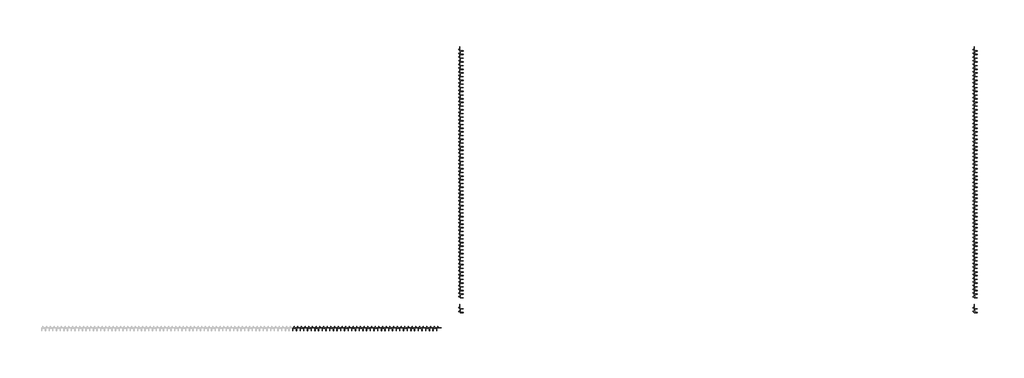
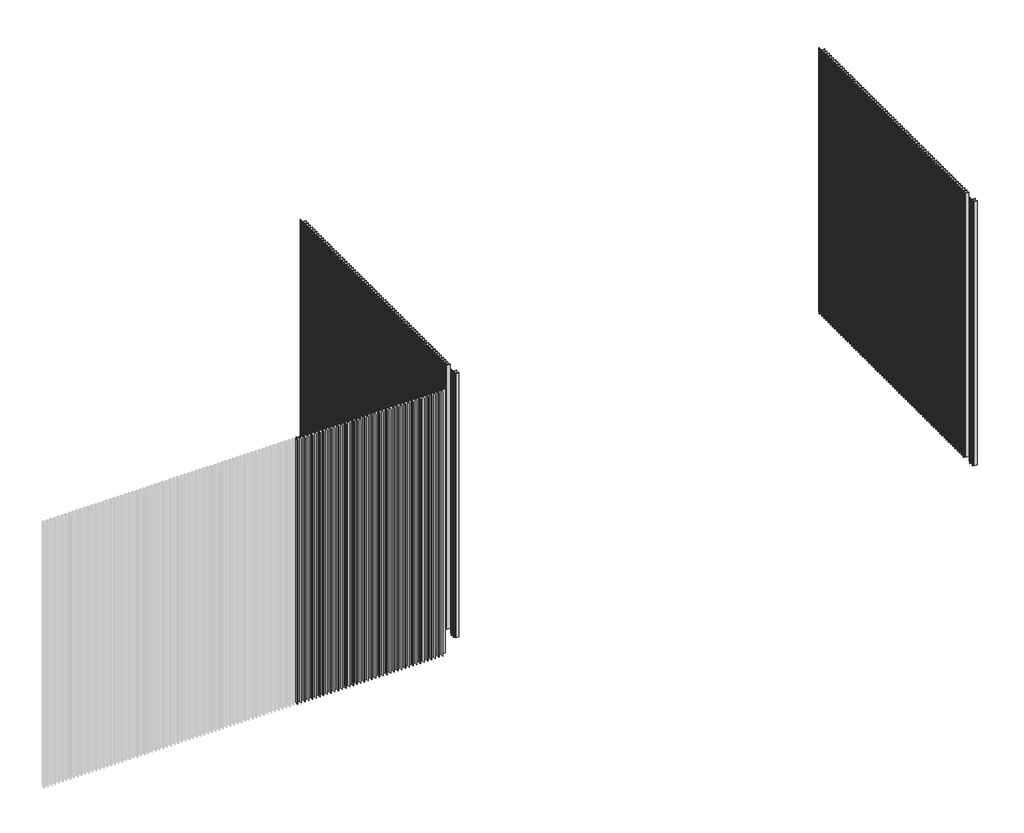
# One storey, part 2 of 2: 90 members.
"""IFC4 building model written with IfcOpenShell, lengths in millimetres."""

from ifc_helpers import new_model, si_unit, origin, place, context, project, spatial, transform, mapped, element, save
from components import rectangular_mullion_a288ed38, rectangular_mullion_a0ea876d

model = new_model("IFC4")

# Units and contexts
model_context = context("Model", 3, world=origin())
ifc_project = project(units=[si_unit("LENGTHUNIT", "METRE", prefix="MILLI")], contexts=[model_context])

# Site, building, storey
site = spatial("IfcSite", under=ifc_project)
building = spatial("IfcBuilding", under=site)
storey = spatial("IfcBuildingStorey", under=building, Name="REN - Top", Elevation=4000.0)

# Members
placement = place(None, origin())
rectangular_mullion_shape = rectangular_mullion_a288ed38(model_context)
element("IfcMember", 1, ObjectType="Rectangular Mullion : Renson_Linarte_LA-E25-01", at=placement, inside=storey, context=model_context, shape_type="MappedRepresentation", body=[
    mapped(rectangular_mullion_shape, transform((209585.5749429, 8204.7218191, 0.0), x_axis=(1.0, 0.0, 0.0), y_axis=(0.0, -1.0, 0.0), z_axis=(0.0, 0.0, -1.0))),
])
element("IfcMember", 2, ObjectType="Rectangular Mullion : Renson_Linarte_LA-E25-01", at=placement, inside=storey, context=model_context, shape_type="MappedRepresentation", body=[
    mapped(rectangular_mullion_shape, transform((209645.5749429, 8204.7218191, 0.0), x_axis=(1.0, 0.0, 0.0), y_axis=(0.0, -1.0, 0.0), z_axis=(0.0, 0.0, -1.0))),
])
element("IfcMember", 3, ObjectType="Rectangular Mullion : Renson_Linarte_LA-E25-01", at=placement, inside=storey, context=model_context, shape_type="MappedRepresentation", body=[
    mapped(rectangular_mullion_shape, transform((209705.5749429, 8204.7218191, 0.0), x_axis=(1.0, 0.0, 0.0), y_axis=(0.0, -1.0, 0.0), z_axis=(0.0, 0.0, -1.0))),
])
element("IfcMember", 4, ObjectType="Rectangular Mullion : Renson_Linarte_LA-E25-01", at=placement, inside=storey, context=model_context, shape_type="MappedRepresentation", body=[
    mapped(rectangular_mullion_shape, transform((209765.5749429, 8204.7218191, 0.0), x_axis=(1.0, 0.0, 0.0), y_axis=(0.0, -1.0, 0.0), z_axis=(0.0, 0.0, -1.0))),
])
element("IfcMember", 5, ObjectType="Rectangular Mullion : Renson_Linarte_LA-E25-01", at=placement, inside=storey, context=model_context, shape_type="MappedRepresentation", body=[
    mapped(rectangular_mullion_shape, transform((209825.5749429, 8204.7218191, 0.0), x_axis=(1.0, 0.0, 0.0), y_axis=(0.0, -1.0, 0.0), z_axis=(0.0, 0.0, -1.0))),
])
element("IfcMember", 6, ObjectType="Rectangular Mullion : Renson_Linarte_LA-E25-01", at=placement, inside=storey, context=model_context, shape_type="MappedRepresentation", body=[
    mapped(rectangular_mullion_shape, transform((209885.5749429, 8204.7218191, 0.0), x_axis=(1.0, 0.0, 0.0), y_axis=(0.0, -1.0, 0.0), z_axis=(0.0, 0.0, -1.0))),
])
element("IfcMember", 7, ObjectType="Rectangular Mullion : Renson_Linarte_LA-E25-01", at=placement, inside=storey, context=model_context, shape_type="MappedRepresentation", body=[
    mapped(rectangular_mullion_shape, transform((209945.5749429, 8204.7218191, 0.0), x_axis=(1.0, 0.0, 0.0), y_axis=(0.0, -1.0, 0.0), z_axis=(0.0, 0.0, -1.0))),
])
element("IfcMember", 8, ObjectType="Rectangular Mullion : Renson_Linarte_LA-E25-01", at=placement, inside=storey, context=model_context, shape_type="MappedRepresentation", body=[
    mapped(rectangular_mullion_shape, transform((210005.5749429, 8204.7218191, 0.0), x_axis=(1.0, 0.0, 0.0), y_axis=(0.0, -1.0, 0.0), z_axis=(0.0, 0.0, -1.0))),
])
element("IfcMember", 9, ObjectType="Rectangular Mullion : Renson_Linarte_LA-E25-01", at=placement, inside=storey, context=model_context, shape_type="MappedRepresentation", body=[
    mapped(rectangular_mullion_shape, transform((210065.5749429, 8204.7218191, 0.0), x_axis=(1.0, 0.0, 0.0), y_axis=(0.0, -1.0, 0.0), z_axis=(0.0, 0.0, -1.0))),
])
element("IfcMember", 10, ObjectType="Rectangular Mullion : Renson_Linarte_LA-E25-01", at=placement, inside=storey, context=model_context, shape_type="MappedRepresentation", body=[
    mapped(rectangular_mullion_shape, transform((210125.5749429, 8204.7218191, 0.0), x_axis=(1.0, 0.0, 0.0), y_axis=(0.0, -1.0, 0.0), z_axis=(0.0, 0.0, -1.0))),
])
element("IfcMember", 11, ObjectType="Rectangular Mullion : Renson_Linarte_LA-E25-01", at=placement, inside=storey, context=model_context, shape_type="MappedRepresentation", body=[
    mapped(rectangular_mullion_shape, transform((210185.5749429, 8204.7218191, 0.0), x_axis=(1.0, 0.0, 0.0), y_axis=(0.0, -1.0, 0.0), z_axis=(0.0, 0.0, -1.0))),
])
element("IfcMember", 12, ObjectType="Rectangular Mullion : Renson_Linarte_LA-E25-01", at=placement, inside=storey, context=model_context, shape_type="MappedRepresentation", body=[
    mapped(rectangular_mullion_shape, transform((210245.5749429, 8204.7218191, 0.0), x_axis=(1.0, 0.0, 0.0), y_axis=(0.0, -1.0, 0.0), z_axis=(0.0, 0.0, -1.0))),
])
element("IfcMember", 13, ObjectType="Rectangular Mullion : Renson_Linarte_LA-E25-01", at=placement, inside=storey, context=model_context, shape_type="MappedRepresentation", body=[
    mapped(rectangular_mullion_shape, transform((210305.5749429, 8204.7218191, 0.0), x_axis=(1.0, 0.0, 0.0), y_axis=(0.0, -1.0, 0.0), z_axis=(0.0, 0.0, -1.0))),
])
element("IfcMember", 14, ObjectType="Rectangular Mullion : Renson_Linarte_LA-E25-01", at=placement, inside=storey, context=model_context, shape_type="MappedRepresentation", body=[
    mapped(rectangular_mullion_shape, transform((210365.5749429, 8204.7218191, 0.0), x_axis=(1.0, 0.0, 0.0), y_axis=(0.0, -1.0, 0.0), z_axis=(0.0, 0.0, -1.0))),
])
element("IfcMember", 15, ObjectType="Rectangular Mullion : Renson_Linarte_LA-E25-01", at=placement, inside=storey, context=model_context, shape_type="MappedRepresentation", body=[
    mapped(rectangular_mullion_shape, transform((210425.5749429, 8204.7218191, 0.0), x_axis=(1.0, 0.0, 0.0), y_axis=(0.0, -1.0, 0.0), z_axis=(0.0, 0.0, -1.0))),
])
element("IfcMember", 16, ObjectType="Rectangular Mullion : Renson_Linarte_LA-E25-01", at=placement, inside=storey, context=model_context, shape_type="MappedRepresentation", body=[
    mapped(rectangular_mullion_shape, transform((210485.5749429, 8204.7218191, 0.0), x_axis=(1.0, 0.0, 0.0), y_axis=(0.0, -1.0, 0.0), z_axis=(0.0, 0.0, -1.0))),
])
element("IfcMember", 17, ObjectType="Rectangular Mullion : Renson_Linarte_LA-E25-01", at=placement, inside=storey, context=model_context, shape_type="MappedRepresentation", body=[
    mapped(rectangular_mullion_shape, transform((210545.5749429, 8204.7218191, 0.0), x_axis=(1.0, 0.0, 0.0), y_axis=(0.0, -1.0, 0.0), z_axis=(0.0, 0.0, -1.0))),
])
element("IfcMember", 18, ObjectType="Rectangular Mullion : Renson_Linarte_LA-E25-01", at=placement, inside=storey, context=model_context, shape_type="MappedRepresentation", body=[
    mapped(rectangular_mullion_shape, transform((210605.5749429, 8204.7218191, 0.0), x_axis=(1.0, 0.0, 0.0), y_axis=(0.0, -1.0, 0.0), z_axis=(0.0, 0.0, -1.0))),
])
element("IfcMember", 19, ObjectType="Rectangular Mullion : Renson_Linarte_LA-E25-01", at=placement, inside=storey, context=model_context, shape_type="MappedRepresentation", body=[
    mapped(rectangular_mullion_shape, transform((210665.5749429, 8204.7218191, 0.0), x_axis=(1.0, 0.0, 0.0), y_axis=(0.0, -1.0, 0.0), z_axis=(0.0, 0.0, -1.0))),
])
element("IfcMember", 20, ObjectType="Rectangular Mullion : Renson_Linarte_LA-E25-01", at=placement, inside=storey, context=model_context, shape_type="MappedRepresentation", body=[
    mapped(rectangular_mullion_shape, transform((210725.5749429, 8204.7218191, 0.0), x_axis=(1.0, 0.0, 0.0), y_axis=(0.0, -1.0, 0.0), z_axis=(0.0, 0.0, -1.0))),
])
element("IfcMember", 21, ObjectType="Rectangular Mullion : Renson_Linarte_LA-E25-01", at=placement, inside=storey, context=model_context, shape_type="MappedRepresentation", body=[
    mapped(rectangular_mullion_shape, transform((215057.0900207, 8379.7218195, 0.0), x_axis=(0.0, 1.0, 0.0), y_axis=(1.0, 0.0, 0.0), z_axis=(0.0, 0.0, -1.0))),
])
element("IfcMember", 22, ObjectType="Rectangular Mullion : Renson_Linarte_LA-E25-01", at=placement, inside=storey, context=model_context, shape_type="MappedRepresentation", body=[
    mapped(rectangular_mullion_shape, transform((215057.0900207, 8439.7218195, 0.0), x_axis=(0.0, 1.0, 0.0), y_axis=(1.0, 0.0, 0.0), z_axis=(0.0, 0.0, -1.0))),
])
element("IfcMember", 23, ObjectType="Rectangular Mullion : Renson_Linarte_LA-E25-01", at=placement, inside=storey, context=model_context, shape_type="MappedRepresentation", body=[
    mapped(rectangular_mullion_shape, transform((215057.0900207, 8499.7218195, 0.0), x_axis=(0.0, 1.0, 0.0), y_axis=(1.0, 0.0, 0.0), z_axis=(0.0, 0.0, -1.0))),
])
element("IfcMember", 24, ObjectType="Rectangular Mullion : Renson_Linarte_LA-E25-01", at=placement, inside=storey, context=model_context, shape_type="MappedRepresentation", body=[
    mapped(rectangular_mullion_shape, transform((215057.0900207, 8559.7218195, 0.0), x_axis=(0.0, 1.0, 0.0), y_axis=(1.0, 0.0, 0.0), z_axis=(0.0, 0.0, -1.0))),
])
element("IfcMember", 25, ObjectType="Rectangular Mullion : Renson_Linarte_LA-E25-01", at=placement, inside=storey, context=model_context, shape_type="MappedRepresentation", body=[
    mapped(rectangular_mullion_shape, transform((215057.0900207, 8619.7218195, 0.0), x_axis=(0.0, 1.0, 0.0), y_axis=(1.0, 0.0, 0.0), z_axis=(0.0, 0.0, -1.0))),
])
element("IfcMember", 26, ObjectType="Rectangular Mullion : Renson_Linarte_LA-E25-01", at=placement, inside=storey, context=model_context, shape_type="MappedRepresentation", body=[
    mapped(rectangular_mullion_shape, transform((215057.0900207, 8679.7218195, 0.0), x_axis=(0.0, 1.0, 0.0), y_axis=(1.0, 0.0, 0.0), z_axis=(0.0, 0.0, -1.0))),
])
element("IfcMember", 27, ObjectType="Rectangular Mullion : Renson_Linarte_LA-E25-01", at=placement, inside=storey, context=model_context, shape_type="MappedRepresentation", body=[
    mapped(rectangular_mullion_shape, transform((215057.0900207, 8739.7218195, 0.0), x_axis=(0.0, 1.0, 0.0), y_axis=(1.0, 0.0, 0.0), z_axis=(0.0, 0.0, -1.0))),
])
element("IfcMember", 28, ObjectType="Rectangular Mullion : Renson_Linarte_LA-E25-01", at=placement, inside=storey, context=model_context, shape_type="MappedRepresentation", body=[
    mapped(rectangular_mullion_shape, transform((215057.0900207, 8799.7218195, 0.0), x_axis=(0.0, 1.0, 0.0), y_axis=(1.0, 0.0, 0.0), z_axis=(0.0, 0.0, -1.0))),
])
element("IfcMember", 29, ObjectType="Rectangular Mullion : Renson_Linarte_LA-E25-01", at=placement, inside=storey, context=model_context, shape_type="MappedRepresentation", body=[
    mapped(rectangular_mullion_shape, transform((215057.0900207, 8859.7218195, 0.0), x_axis=(0.0, 1.0, 0.0), y_axis=(1.0, 0.0, 0.0), z_axis=(0.0, 0.0, -1.0))),
])
element("IfcMember", 30, ObjectType="Rectangular Mullion : Renson_Linarte_LA-E25-01", at=placement, inside=storey, context=model_context, shape_type="MappedRepresentation", body=[
    mapped(rectangular_mullion_shape, transform((215057.0900207, 8919.7218195, 0.0), x_axis=(0.0, 1.0, 0.0), y_axis=(1.0, 0.0, 0.0), z_axis=(0.0, 0.0, -1.0))),
])
element("IfcMember", 31, ObjectType="Rectangular Mullion : Renson_Linarte_LA-E25-01", at=placement, inside=storey, context=model_context, shape_type="MappedRepresentation", body=[
    mapped(rectangular_mullion_shape, transform((215057.0900207, 8979.7218195, 0.0), x_axis=(0.0, 1.0, 0.0), y_axis=(1.0, 0.0, 0.0), z_axis=(0.0, 0.0, -1.0))),
])
element("IfcMember", 32, ObjectType="Rectangular Mullion : Renson_Linarte_LA-E25-01", at=placement, inside=storey, context=model_context, shape_type="MappedRepresentation", body=[
    mapped(rectangular_mullion_shape, transform((215057.0900207, 9039.7218195, 0.0), x_axis=(0.0, 1.0, 0.0), y_axis=(1.0, 0.0, 0.0), z_axis=(0.0, 0.0, -1.0))),
])
element("IfcMember", 33, ObjectType="Rectangular Mullion : Renson_Linarte_LA-E25-01", at=placement, inside=storey, context=model_context, shape_type="MappedRepresentation", body=[
    mapped(rectangular_mullion_shape, transform((215057.0900207, 9099.7218195, 0.0), x_axis=(0.0, 1.0, 0.0), y_axis=(1.0, 0.0, 0.0), z_axis=(0.0, 0.0, -1.0))),
])
element("IfcMember", 34, ObjectType="Rectangular Mullion : Renson_Linarte_LA-E25-01", at=placement, inside=storey, context=model_context, shape_type="MappedRepresentation", body=[
    mapped(rectangular_mullion_shape, transform((215057.0900207, 9159.7218195, 0.0), x_axis=(0.0, 1.0, 0.0), y_axis=(1.0, 0.0, 0.0), z_axis=(0.0, 0.0, -1.0))),
])
element("IfcMember", 35, ObjectType="Rectangular Mullion : Renson_Linarte_LA-E25-01", at=placement, inside=storey, context=model_context, shape_type="MappedRepresentation", body=[
    mapped(rectangular_mullion_shape, transform((215057.0900207, 9219.7218195, 0.0), x_axis=(0.0, 1.0, 0.0), y_axis=(1.0, 0.0, 0.0), z_axis=(0.0, 0.0, -1.0))),
])
element("IfcMember", 36, ObjectType="Rectangular Mullion : Renson_Linarte_LA-E25-01", at=placement, inside=storey, context=model_context, shape_type="MappedRepresentation", body=[
    mapped(rectangular_mullion_shape, transform((215057.0900207, 9279.7218195, 0.0), x_axis=(0.0, 1.0, 0.0), y_axis=(1.0, 0.0, 0.0), z_axis=(0.0, 0.0, -1.0))),
])
element("IfcMember", 37, ObjectType="Rectangular Mullion : Renson_Linarte_LA-E25-01", at=placement, inside=storey, context=model_context, shape_type="MappedRepresentation", body=[
    mapped(rectangular_mullion_shape, transform((215057.0900207, 9339.7218195, 0.0), x_axis=(0.0, 1.0, 0.0), y_axis=(1.0, 0.0, 0.0), z_axis=(0.0, 0.0, -1.0))),
])
element("IfcMember", 38, ObjectType="Rectangular Mullion : Renson_Linarte_LA-E25-01", at=placement, inside=storey, context=model_context, shape_type="MappedRepresentation", body=[
    mapped(rectangular_mullion_shape, transform((215057.0900207, 9399.7218195, 0.0), x_axis=(0.0, 1.0, 0.0), y_axis=(1.0, 0.0, 0.0), z_axis=(0.0, 0.0, -1.0))),
])
element("IfcMember", 39, ObjectType="Rectangular Mullion : Renson_Linarte_LA-E25-01", at=placement, inside=storey, context=model_context, shape_type="MappedRepresentation", body=[
    mapped(rectangular_mullion_shape, transform((215057.0900207, 9459.7218195, 0.0), x_axis=(0.0, 1.0, 0.0), y_axis=(1.0, 0.0, 0.0), z_axis=(0.0, 0.0, -1.0))),
])
element("IfcMember", 40, ObjectType="Rectangular Mullion : Renson_Linarte_LA-E25-01", at=placement, inside=storey, context=model_context, shape_type="MappedRepresentation", body=[
    mapped(rectangular_mullion_shape, transform((215057.0900207, 9519.7218195, 0.0), x_axis=(0.0, 1.0, 0.0), y_axis=(1.0, 0.0, 0.0), z_axis=(0.0, 0.0, -1.0))),
])
element("IfcMember", 41, ObjectType="Rectangular Mullion : Renson_Linarte_LA-E25-01", at=placement, inside=storey, context=model_context, shape_type="MappedRepresentation", body=[
    mapped(rectangular_mullion_shape, transform((215057.0900207, 9579.7218195, 0.0), x_axis=(0.0, 1.0, 0.0), y_axis=(1.0, 0.0, 0.0), z_axis=(0.0, 0.0, -1.0))),
])
element("IfcMember", 42, ObjectType="Rectangular Mullion : Renson_Linarte_LA-E25-01", at=placement, inside=storey, context=model_context, shape_type="MappedRepresentation", body=[
    mapped(rectangular_mullion_shape, transform((215057.0900207, 9639.7218195, 0.0), x_axis=(0.0, 1.0, 0.0), y_axis=(1.0, 0.0, 0.0), z_axis=(0.0, 0.0, -1.0))),
])
element("IfcMember", 43, ObjectType="Rectangular Mullion : Renson_Linarte_LA-E25-01", at=placement, inside=storey, context=model_context, shape_type="MappedRepresentation", body=[
    mapped(rectangular_mullion_shape, transform((215057.0900207, 9699.7218195, 0.0), x_axis=(0.0, 1.0, 0.0), y_axis=(1.0, 0.0, 0.0), z_axis=(0.0, 0.0, -1.0))),
])
element("IfcMember", 44, ObjectType="Rectangular Mullion : Renson_Linarte_LA-E25-01", at=placement, inside=storey, context=model_context, shape_type="MappedRepresentation", body=[
    mapped(rectangular_mullion_shape, transform((215057.0900207, 9759.7218195, 0.0), x_axis=(0.0, 1.0, 0.0), y_axis=(1.0, 0.0, 0.0), z_axis=(0.0, 0.0, -1.0))),
])
element("IfcMember", 45, ObjectType="Rectangular Mullion : Renson_Linarte_LA-E25-01", at=placement, inside=storey, context=model_context, shape_type="MappedRepresentation", body=[
    mapped(rectangular_mullion_shape, transform((215057.0900207, 9819.7218195, 0.0), x_axis=(0.0, 1.0, 0.0), y_axis=(1.0, 0.0, 0.0), z_axis=(0.0, 0.0, -1.0))),
])
element("IfcMember", 46, ObjectType="Rectangular Mullion : Renson_Linarte_LA-E25-01", at=placement, inside=storey, context=model_context, shape_type="MappedRepresentation", body=[
    mapped(rectangular_mullion_shape, transform((215057.0900207, 9879.7218195, 0.0), x_axis=(0.0, 1.0, 0.0), y_axis=(1.0, 0.0, 0.0), z_axis=(0.0, 0.0, -1.0))),
])
element("IfcMember", 47, ObjectType="Rectangular Mullion : Renson_Linarte_LA-E25-01", at=placement, inside=storey, context=model_context, shape_type="MappedRepresentation", body=[
    mapped(rectangular_mullion_shape, transform((215057.0900207, 9939.7218195, 0.0), x_axis=(0.0, 1.0, 0.0), y_axis=(1.0, 0.0, 0.0), z_axis=(0.0, 0.0, -1.0))),
])
element("IfcMember", 48, ObjectType="Rectangular Mullion : Renson_Linarte_LA-E25-01", at=placement, inside=storey, context=model_context, shape_type="MappedRepresentation", body=[
    mapped(rectangular_mullion_shape, transform((215057.0900207, 9999.7218195, 0.0), x_axis=(0.0, 1.0, 0.0), y_axis=(1.0, 0.0, 0.0), z_axis=(0.0, 0.0, -1.0))),
])
element("IfcMember", 49, ObjectType="Rectangular Mullion : Renson_Linarte_LA-E25-01", at=placement, inside=storey, context=model_context, shape_type="MappedRepresentation", body=[
    mapped(rectangular_mullion_shape, transform((215057.0900207, 10059.7218195, 0.0), x_axis=(0.0, 1.0, 0.0), y_axis=(1.0, 0.0, 0.0), z_axis=(0.0, 0.0, -1.0))),
])
element("IfcMember", 50, ObjectType="Rectangular Mullion : Renson_Linarte_LA-E25-01", at=placement, inside=storey, context=model_context, shape_type="MappedRepresentation", body=[
    mapped(rectangular_mullion_shape, transform((215057.0900207, 10119.7218195, 0.0), x_axis=(0.0, 1.0, 0.0), y_axis=(1.0, 0.0, 0.0), z_axis=(0.0, 0.0, -1.0))),
])
element("IfcMember", 51, ObjectType="Rectangular Mullion : Renson_Linarte_LA-E25-01", at=placement, inside=storey, context=model_context, shape_type="MappedRepresentation", body=[
    mapped(rectangular_mullion_shape, transform((215057.0900207, 10179.7218195, 0.0), x_axis=(0.0, 1.0, 0.0), y_axis=(1.0, 0.0, 0.0), z_axis=(0.0, 0.0, -1.0))),
])
element("IfcMember", 52, ObjectType="Rectangular Mullion : Renson_Linarte_LA-E25-01", at=placement, inside=storey, context=model_context, shape_type="MappedRepresentation", body=[
    mapped(rectangular_mullion_shape, transform((215057.0900207, 10239.7218195, 0.0), x_axis=(0.0, 1.0, 0.0), y_axis=(1.0, 0.0, 0.0), z_axis=(0.0, 0.0, -1.0))),
])
element("IfcMember", 53, ObjectType="Rectangular Mullion : Renson_Linarte_LA-E25-01", at=placement, inside=storey, context=model_context, shape_type="MappedRepresentation", body=[
    mapped(rectangular_mullion_shape, transform((215057.0900207, 10299.7218195, 0.0), x_axis=(0.0, 1.0, 0.0), y_axis=(1.0, 0.0, 0.0), z_axis=(0.0, 0.0, -1.0))),
])
element("IfcMember", 54, ObjectType="Rectangular Mullion : Renson_Linarte_LA-E25-01", at=placement, inside=storey, context=model_context, shape_type="MappedRepresentation", body=[
    mapped(rectangular_mullion_shape, transform((215057.0900207, 10359.7218195, 0.0), x_axis=(0.0, 1.0, 0.0), y_axis=(1.0, 0.0, 0.0), z_axis=(0.0, 0.0, -1.0))),
])
element("IfcMember", 55, ObjectType="Rectangular Mullion : Renson_Linarte_LA-E25-01", at=placement, inside=storey, context=model_context, shape_type="MappedRepresentation", body=[
    mapped(rectangular_mullion_shape, transform((210877.0900207, 8379.7218195, 0.0), x_axis=(0.0, 1.0, 0.0), y_axis=(1.0, 0.0, 0.0), z_axis=(0.0, 0.0, -1.0))),
])
element("IfcMember", 56, ObjectType="Rectangular Mullion : Renson_Linarte_LA-E25-01", at=placement, inside=storey, context=model_context, shape_type="MappedRepresentation", body=[
    mapped(rectangular_mullion_shape, transform((210877.0900207, 8439.7218195, 0.0), x_axis=(0.0, 1.0, 0.0), y_axis=(1.0, 0.0, 0.0), z_axis=(0.0, 0.0, -1.0))),
])
element("IfcMember", 57, ObjectType="Rectangular Mullion : Renson_Linarte_LA-E25-01", at=placement, inside=storey, context=model_context, shape_type="MappedRepresentation", body=[
    mapped(rectangular_mullion_shape, transform((210877.0900207, 8499.7218195, 0.0), x_axis=(0.0, 1.0, 0.0), y_axis=(1.0, 0.0, 0.0), z_axis=(0.0, 0.0, -1.0))),
])
element("IfcMember", 58, ObjectType="Rectangular Mullion : Renson_Linarte_LA-E25-01", at=placement, inside=storey, context=model_context, shape_type="MappedRepresentation", body=[
    mapped(rectangular_mullion_shape, transform((210877.0900207, 8559.7218195, 0.0), x_axis=(0.0, 1.0, 0.0), y_axis=(1.0, 0.0, 0.0), z_axis=(0.0, 0.0, -1.0))),
])
element("IfcMember", 59, ObjectType="Rectangular Mullion : Renson_Linarte_LA-E25-01", at=placement, inside=storey, context=model_context, shape_type="MappedRepresentation", body=[
    mapped(rectangular_mullion_shape, transform((210877.0900207, 8619.7218195, 0.0), x_axis=(0.0, 1.0, 0.0), y_axis=(1.0, 0.0, 0.0), z_axis=(0.0, 0.0, -1.0))),
])
element("IfcMember", 60, ObjectType="Rectangular Mullion : Renson_Linarte_LA-E25-01", at=placement, inside=storey, context=model_context, shape_type="MappedRepresentation", body=[
    mapped(rectangular_mullion_shape, transform((210877.0900207, 8679.7218195, 0.0), x_axis=(0.0, 1.0, 0.0), y_axis=(1.0, 0.0, 0.0), z_axis=(0.0, 0.0, -1.0))),
])
element("IfcMember", 61, ObjectType="Rectangular Mullion : Renson_Linarte_LA-E25-01", at=placement, inside=storey, context=model_context, shape_type="MappedRepresentation", body=[
    mapped(rectangular_mullion_shape, transform((210877.0900207, 8739.7218195, 0.0), x_axis=(0.0, 1.0, 0.0), y_axis=(1.0, 0.0, 0.0), z_axis=(0.0, 0.0, -1.0))),
])
element("IfcMember", 62, ObjectType="Rectangular Mullion : Renson_Linarte_LA-E25-01", at=placement, inside=storey, context=model_context, shape_type="MappedRepresentation", body=[
    mapped(rectangular_mullion_shape, transform((210877.0900207, 8799.7218195, 0.0), x_axis=(0.0, 1.0, 0.0), y_axis=(1.0, 0.0, 0.0), z_axis=(0.0, 0.0, -1.0))),
])
element("IfcMember", 63, ObjectType="Rectangular Mullion : Renson_Linarte_LA-E25-01", at=placement, inside=storey, context=model_context, shape_type="MappedRepresentation", body=[
    mapped(rectangular_mullion_shape, transform((210877.0900207, 8859.7218195, 0.0), x_axis=(0.0, 1.0, 0.0), y_axis=(1.0, 0.0, 0.0), z_axis=(0.0, 0.0, -1.0))),
])
element("IfcMember", 64, ObjectType="Rectangular Mullion : Renson_Linarte_LA-E25-01", at=placement, inside=storey, context=model_context, shape_type="MappedRepresentation", body=[
    mapped(rectangular_mullion_shape, transform((210877.0900207, 8919.7218195, 0.0), x_axis=(0.0, 1.0, 0.0), y_axis=(1.0, 0.0, 0.0), z_axis=(0.0, 0.0, -1.0))),
])
element("IfcMember", 65, ObjectType="Rectangular Mullion : Renson_Linarte_LA-E25-01", at=placement, inside=storey, context=model_context, shape_type="MappedRepresentation", body=[
    mapped(rectangular_mullion_shape, transform((210877.0900207, 8979.7218195, 0.0), x_axis=(0.0, 1.0, 0.0), y_axis=(1.0, 0.0, 0.0), z_axis=(0.0, 0.0, -1.0))),
])
element("IfcMember", 66, ObjectType="Rectangular Mullion : Renson_Linarte_LA-E25-01", at=placement, inside=storey, context=model_context, shape_type="MappedRepresentation", body=[
    mapped(rectangular_mullion_shape, transform((210877.0900207, 9039.7218195, 0.0), x_axis=(0.0, 1.0, 0.0), y_axis=(1.0, 0.0, 0.0), z_axis=(0.0, 0.0, -1.0))),
])
element("IfcMember", 67, ObjectType="Rectangular Mullion : Renson_Linarte_LA-E25-01", at=placement, inside=storey, context=model_context, shape_type="MappedRepresentation", body=[
    mapped(rectangular_mullion_shape, transform((210877.0900207, 9099.7218195, 0.0), x_axis=(0.0, 1.0, 0.0), y_axis=(1.0, 0.0, 0.0), z_axis=(0.0, 0.0, -1.0))),
])
element("IfcMember", 68, ObjectType="Rectangular Mullion : Renson_Linarte_LA-E25-01", at=placement, inside=storey, context=model_context, shape_type="MappedRepresentation", body=[
    mapped(rectangular_mullion_shape, transform((210877.0900207, 9159.7218195, 0.0), x_axis=(0.0, 1.0, 0.0), y_axis=(1.0, 0.0, 0.0), z_axis=(0.0, 0.0, -1.0))),
])
element("IfcMember", 69, ObjectType="Rectangular Mullion : Renson_Linarte_LA-E25-01", at=placement, inside=storey, context=model_context, shape_type="MappedRepresentation", body=[
    mapped(rectangular_mullion_shape, transform((210877.0900207, 9219.7218195, 0.0), x_axis=(0.0, 1.0, 0.0), y_axis=(1.0, 0.0, 0.0), z_axis=(0.0, 0.0, -1.0))),
])
element("IfcMember", 70, ObjectType="Rectangular Mullion : Renson_Linarte_LA-E25-01", at=placement, inside=storey, context=model_context, shape_type="MappedRepresentation", body=[
    mapped(rectangular_mullion_shape, transform((210877.0900207, 9279.7218195, 0.0), x_axis=(0.0, 1.0, 0.0), y_axis=(1.0, 0.0, 0.0), z_axis=(0.0, 0.0, -1.0))),
])
element("IfcMember", 71, ObjectType="Rectangular Mullion : Renson_Linarte_LA-E25-01", at=placement, inside=storey, context=model_context, shape_type="MappedRepresentation", body=[
    mapped(rectangular_mullion_shape, transform((210877.0900207, 9339.7218195, 0.0), x_axis=(0.0, 1.0, 0.0), y_axis=(1.0, 0.0, 0.0), z_axis=(0.0, 0.0, -1.0))),
])
element("IfcMember", 72, ObjectType="Rectangular Mullion : Renson_Linarte_LA-E25-01", at=placement, inside=storey, context=model_context, shape_type="MappedRepresentation", body=[
    mapped(rectangular_mullion_shape, transform((210877.0900207, 9399.7218195, 0.0), x_axis=(0.0, 1.0, 0.0), y_axis=(1.0, 0.0, 0.0), z_axis=(0.0, 0.0, -1.0))),
])
element("IfcMember", 73, ObjectType="Rectangular Mullion : Renson_Linarte_LA-E25-01", at=placement, inside=storey, context=model_context, shape_type="MappedRepresentation", body=[
    mapped(rectangular_mullion_shape, transform((210877.0900207, 9459.7218195, 0.0), x_axis=(0.0, 1.0, 0.0), y_axis=(1.0, 0.0, 0.0), z_axis=(0.0, 0.0, -1.0))),
])
element("IfcMember", 74, ObjectType="Rectangular Mullion : Renson_Linarte_LA-E25-01", at=placement, inside=storey, context=model_context, shape_type="MappedRepresentation", body=[
    mapped(rectangular_mullion_shape, transform((210877.0900207, 9519.7218195, 0.0), x_axis=(0.0, 1.0, 0.0), y_axis=(1.0, 0.0, 0.0), z_axis=(0.0, 0.0, -1.0))),
])
element("IfcMember", 75, ObjectType="Rectangular Mullion : Renson_Linarte_LA-E25-01", at=placement, inside=storey, context=model_context, shape_type="MappedRepresentation", body=[
    mapped(rectangular_mullion_shape, transform((210877.0900207, 9579.7218195, 0.0), x_axis=(0.0, 1.0, 0.0), y_axis=(1.0, 0.0, 0.0), z_axis=(0.0, 0.0, -1.0))),
])
element("IfcMember", 76, ObjectType="Rectangular Mullion : Renson_Linarte_LA-E25-01", at=placement, inside=storey, context=model_context, shape_type="MappedRepresentation", body=[
    mapped(rectangular_mullion_shape, transform((210877.0900207, 9639.7218195, 0.0), x_axis=(0.0, 1.0, 0.0), y_axis=(1.0, 0.0, 0.0), z_axis=(0.0, 0.0, -1.0))),
])
element("IfcMember", 77, ObjectType="Rectangular Mullion : Renson_Linarte_LA-E25-01", at=placement, inside=storey, context=model_context, shape_type="MappedRepresentation", body=[
    mapped(rectangular_mullion_shape, transform((210877.0900207, 9699.7218195, 0.0), x_axis=(0.0, 1.0, 0.0), y_axis=(1.0, 0.0, 0.0), z_axis=(0.0, 0.0, -1.0))),
])
element("IfcMember", 78, ObjectType="Rectangular Mullion : Renson_Linarte_LA-E25-01", at=placement, inside=storey, context=model_context, shape_type="MappedRepresentation", body=[
    mapped(rectangular_mullion_shape, transform((210877.0900207, 9759.7218195, 0.0), x_axis=(0.0, 1.0, 0.0), y_axis=(1.0, 0.0, 0.0), z_axis=(0.0, 0.0, -1.0))),
])
element("IfcMember", 79, ObjectType="Rectangular Mullion : Renson_Linarte_LA-E25-01", at=placement, inside=storey, context=model_context, shape_type="MappedRepresentation", body=[
    mapped(rectangular_mullion_shape, transform((210877.0900207, 9819.7218195, 0.0), x_axis=(0.0, 1.0, 0.0), y_axis=(1.0, 0.0, 0.0), z_axis=(0.0, 0.0, -1.0))),
])
element("IfcMember", 80, ObjectType="Rectangular Mullion : Renson_Linarte_LA-E25-01", at=placement, inside=storey, context=model_context, shape_type="MappedRepresentation", body=[
    mapped(rectangular_mullion_shape, transform((210877.0900207, 9879.7218195, 0.0), x_axis=(0.0, 1.0, 0.0), y_axis=(1.0, 0.0, 0.0), z_axis=(0.0, 0.0, -1.0))),
])
element("IfcMember", 81, ObjectType="Rectangular Mullion : Renson_Linarte_LA-E25-01", at=placement, inside=storey, context=model_context, shape_type="MappedRepresentation", body=[
    mapped(rectangular_mullion_shape, transform((210877.0900207, 9939.7218195, 0.0), x_axis=(0.0, 1.0, 0.0), y_axis=(1.0, 0.0, 0.0), z_axis=(0.0, 0.0, -1.0))),
])
element("IfcMember", 82, ObjectType="Rectangular Mullion : Renson_Linarte_LA-E25-01", at=placement, inside=storey, context=model_context, shape_type="MappedRepresentation", body=[
    mapped(rectangular_mullion_shape, transform((210877.0900207, 9999.7218195, 0.0), x_axis=(0.0, 1.0, 0.0), y_axis=(1.0, 0.0, 0.0), z_axis=(0.0, 0.0, -1.0))),
])
element("IfcMember", 83, ObjectType="Rectangular Mullion : Renson_Linarte_LA-E25-01", at=placement, inside=storey, context=model_context, shape_type="MappedRepresentation", body=[
    mapped(rectangular_mullion_shape, transform((210877.0900207, 10059.7218195, 0.0), x_axis=(0.0, 1.0, 0.0), y_axis=(1.0, 0.0, 0.0), z_axis=(0.0, 0.0, -1.0))),
])
element("IfcMember", 84, ObjectType="Rectangular Mullion : Renson_Linarte_LA-E25-01", at=placement, inside=storey, context=model_context, shape_type="MappedRepresentation", body=[
    mapped(rectangular_mullion_shape, transform((210877.0900207, 10119.7218195, 0.0), x_axis=(0.0, 1.0, 0.0), y_axis=(1.0, 0.0, 0.0), z_axis=(0.0, 0.0, -1.0))),
])
element("IfcMember", 85, ObjectType="Rectangular Mullion : Renson_Linarte_LA-E25-01", at=placement, inside=storey, context=model_context, shape_type="MappedRepresentation", body=[
    mapped(rectangular_mullion_shape, transform((210877.0900207, 10179.7218195, 0.0), x_axis=(0.0, 1.0, 0.0), y_axis=(1.0, 0.0, 0.0), z_axis=(0.0, 0.0, -1.0))),
])
element("IfcMember", 86, ObjectType="Rectangular Mullion : Renson_Linarte_LA-E25-01", at=placement, inside=storey, context=model_context, shape_type="MappedRepresentation", body=[
    mapped(rectangular_mullion_shape, transform((210877.0900207, 10239.7218195, 0.0), x_axis=(0.0, 1.0, 0.0), y_axis=(1.0, 0.0, 0.0), z_axis=(0.0, 0.0, -1.0))),
])
element("IfcMember", 87, ObjectType="Rectangular Mullion : Renson_Linarte_LA-E25-01", at=placement, inside=storey, context=model_context, shape_type="MappedRepresentation", body=[
    mapped(rectangular_mullion_shape, transform((210877.0900207, 10299.7218195, 0.0), x_axis=(0.0, 1.0, 0.0), y_axis=(1.0, 0.0, 0.0), z_axis=(0.0, 0.0, -1.0))),
])
element("IfcMember", 88, ObjectType="Rectangular Mullion : Renson_Linarte_LA-E25-01", at=placement, inside=storey, context=model_context, shape_type="MappedRepresentation", body=[
    mapped(rectangular_mullion_shape, transform((210877.0900207, 10359.7218195, 0.0), x_axis=(0.0, 1.0, 0.0), y_axis=(1.0, 0.0, 0.0), z_axis=(0.0, 0.0, -1.0))),
])
rectangular_mullion_2_shape = rectangular_mullion_a0ea876d(model_context)
element("IfcMember", 89, ObjectType="Rectangular Mullion : Renson_Linarte_LA-E25-01", at=placement, inside=storey, context=model_context, shape_type="MappedRepresentation", body=[
    mapped(rectangular_mullion_2_shape, transform((215057.0900207, 8259.7218191, 2250.0), x_axis=(0.0, -1.0, 0.0), y_axis=(1.0, 0.0, 0.0), z_axis=(0.0, 0.0, 1.0))),
])
element("IfcMember", 90, ObjectType="Rectangular Mullion : Renson_Linarte_LA-E25-01", at=placement, inside=storey, context=model_context, shape_type="MappedRepresentation", body=[
    mapped(rectangular_mullion_2_shape, transform((210877.0900207, 8259.7218191, 2250.0), x_axis=(0.0, -1.0, 0.0), y_axis=(1.0, 0.0, 0.0), z_axis=(0.0, 0.0, 1.0))),
])

save(model, "model.ifc")
